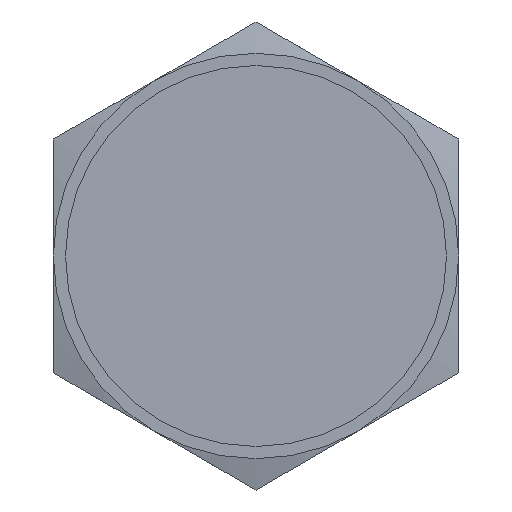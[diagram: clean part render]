
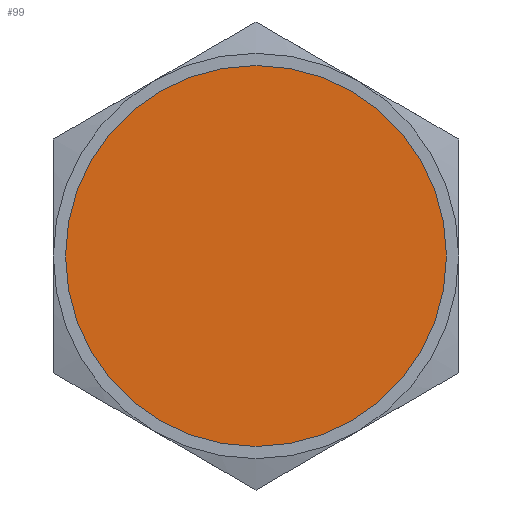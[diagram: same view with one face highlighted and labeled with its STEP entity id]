
A CAD part, front view. The second image highlights one B-rep face of the part: STEP entity #99.
In plain terms, the highlighted planar face has unit normal (0, -1, 0).
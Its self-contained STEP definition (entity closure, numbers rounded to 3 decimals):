
#99 = ADVANCED_FACE( '', ( #161 ), #162, .T. );
#161 = FACE_OUTER_BOUND( '', #240, .T. );
#162 = PLANE( '', #241 );
#240 = EDGE_LOOP( '', ( #441, #442 ) );
#241 = AXIS2_PLACEMENT_3D( '', #443, #444, #445 );
#441 = ORIENTED_EDGE( '', *, *, #557, .F. );
#442 = ORIENTED_EDGE( '', *, *, #599, .F. );
#443 = CARTESIAN_POINT( '', ( 3.289, -4.7, 0. ) );
#444 = DIRECTION( '', ( 0., -1., 0. ) );
#445 = DIRECTION( '', ( -1., 0., 0. ) );
#557 = EDGE_CURVE( '', #654, #657, #658, .T. );
#599 = EDGE_CURVE( '', #657, #654, #721, .T. );
#654 = VERTEX_POINT( '', #786 );
#657 = VERTEX_POINT( '', #790 );
#658 = CIRCLE( '', #791, 6.579 );
#721 = CIRCLE( '', #1077, 6.579 );
#786 = CARTESIAN_POINT( '', ( 6.579, -4.7, 0. ) );
#790 = CARTESIAN_POINT( '', ( -6.579, -4.7, 0. ) );
#791 = AXIS2_PLACEMENT_3D( '', #1135, #1136, #1137 );
#1077 = AXIS2_PLACEMENT_3D( '', #1175, #1176, #1177 );
#1135 = CARTESIAN_POINT( '', ( 0., -4.7, 0. ) );
#1136 = DIRECTION( '', ( 0., 1., 0. ) );
#1137 = DIRECTION( '', ( 1., 0., 0. ) );
#1175 = CARTESIAN_POINT( '', ( 0., -4.7, 0. ) );
#1176 = DIRECTION( '', ( 0., 1., 0. ) );
#1177 = DIRECTION( '', ( 1., 0., 0. ) );
